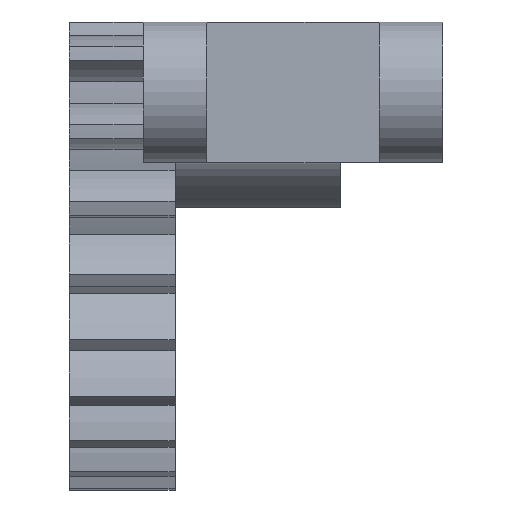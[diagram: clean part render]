
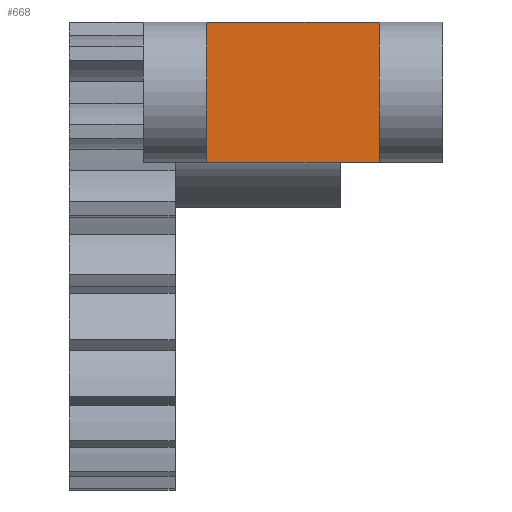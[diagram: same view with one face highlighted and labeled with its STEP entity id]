
A CAD part, front view. The second image highlights one B-rep face of the part: STEP entity #668.
In plain terms, the highlighted planar face has unit normal (0, -1, 0).
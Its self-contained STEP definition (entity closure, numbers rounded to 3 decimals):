
#119 = CARTESIAN_POINT ( 'NONE',  ( -6., -46., 2.702 ) ) ;
#214 = VECTOR ( 'NONE', #1211, 1000. ) ;
#419 = CARTESIAN_POINT ( 'NONE',  ( -14., -46., 17.402 ) ) ;
#456 = DIRECTION ( 'NONE',  ( 0., 1., 0. ) ) ;
#487 = VECTOR ( 'NONE', #2728, 1000. ) ;
#538 = AXIS2_PLACEMENT_3D ( 'NONE', #2222, #456, #1235 ) ;
#540 = CARTESIAN_POINT ( 'NONE',  ( 6., -46., 17.402 ) ) ;
#564 = LINE ( 'NONE', #2570, #597 ) ;
#586 = EDGE_CURVE ( 'NONE', #2507, #2458, #1509, .T. ) ;
#597 = VECTOR ( 'NONE', #2125, 1000. ) ;
#668 = ADVANCED_FACE ( 'NONE', ( #2990 ), #2292, .F. ) ;
#676 = CARTESIAN_POINT ( 'NONE',  ( -14., -46., 2.702 ) ) ;
#680 = EDGE_CURVE ( 'NONE', #2507, #2992, #2733, .T. ) ;
#842 = EDGE_CURVE ( 'NONE', #2541, #2992, #564, .T. ) ;
#1211 = DIRECTION ( 'NONE',  ( 0., 0., -1. ) ) ;
#1235 = DIRECTION ( 'NONE',  ( -1., 0., 0. ) ) ;
#1509 = LINE ( 'NONE', #2536, #214 ) ;
#1781 = ORIENTED_EDGE ( 'NONE', *, *, #842, .T. ) ;
#1969 = LINE ( 'NONE', #676, #487 ) ;
#2044 = CARTESIAN_POINT ( 'NONE',  ( 6., -46., 2.702 ) ) ;
#2087 = EDGE_CURVE ( 'NONE', #2458, #2541, #1969, .T. ) ;
#2125 = DIRECTION ( 'NONE',  ( 0., 0., 1. ) ) ;
#2222 = CARTESIAN_POINT ( 'NONE',  ( -14., -46., 17.402 ) ) ;
#2292 = PLANE ( 'NONE',  #538 ) ;
#2353 = ORIENTED_EDGE ( 'NONE', *, *, #680, .F. ) ;
#2458 = VERTEX_POINT ( 'NONE', #119 ) ;
#2488 = DIRECTION ( 'NONE',  ( 1., 0., 0. ) ) ;
#2507 = VERTEX_POINT ( 'NONE', #2738 ) ;
#2536 = CARTESIAN_POINT ( 'NONE',  ( -6., -46., -2.698 ) ) ;
#2541 = VERTEX_POINT ( 'NONE', #2044 ) ;
#2570 = CARTESIAN_POINT ( 'NONE',  ( 6., -46., 17.402 ) ) ;
#2728 = DIRECTION ( 'NONE',  ( 1., 0., 0. ) ) ;
#2733 = LINE ( 'NONE', #419, #2904 ) ;
#2738 = CARTESIAN_POINT ( 'NONE',  ( -6., -46., 17.402 ) ) ;
#2904 = VECTOR ( 'NONE', #2488, 1000. ) ;
#2917 = ORIENTED_EDGE ( 'NONE', *, *, #586, .T. ) ;
#2990 = FACE_OUTER_BOUND ( 'NONE', #3147, .T. ) ;
#2992 = VERTEX_POINT ( 'NONE', #540 ) ;
#3139 = ORIENTED_EDGE ( 'NONE', *, *, #2087, .T. ) ;
#3147 = EDGE_LOOP ( 'NONE', ( #2917, #3139, #1781, #2353 ) ) ;
